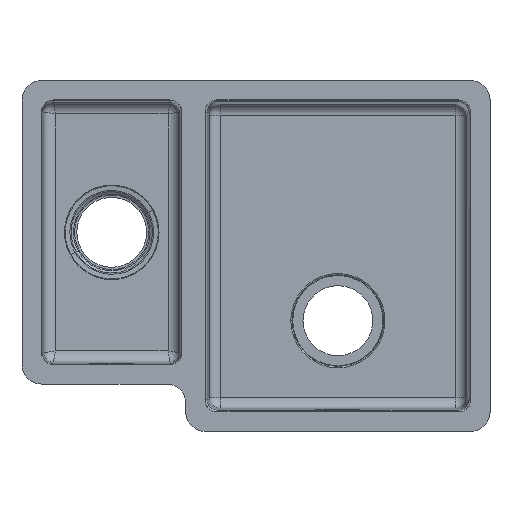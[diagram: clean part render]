
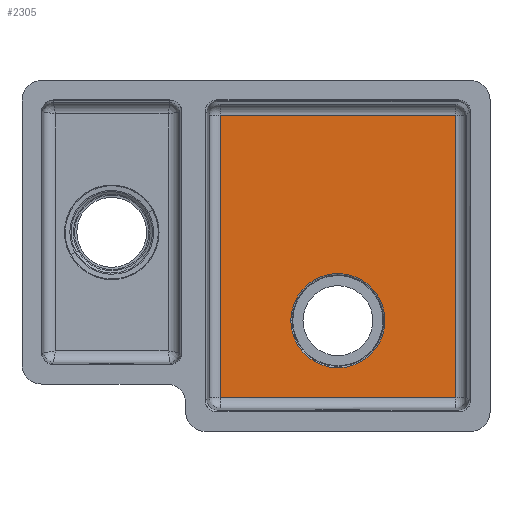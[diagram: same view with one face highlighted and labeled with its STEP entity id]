
A CAD part, top view. The second image highlights one B-rep face of the part: STEP entity #2305.
In plain terms, the highlighted planar face has unit normal (0, 0, 1) as drawn and (0, 0, -1) by its records, which use the part's own axes.
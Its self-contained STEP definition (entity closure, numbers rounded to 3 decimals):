
#2083=CARTESIAN_POINT('Vertex',(-151.769,181.769,199.)) ;
#2114=CARTESIAN_POINT('Vertex',(151.769,181.769,199.)) ;
#2117=CARTESIAN_POINT('Line Origine',(0.,181.769,199.)) ;
#2154=CARTESIAN_POINT('Vertex',(151.769,-181.769,199.)) ;
#2157=CARTESIAN_POINT('Line Origine',(151.769,0.,199.)) ;
#2194=CARTESIAN_POINT('Vertex',(-151.769,-181.769,199.)) ;
#2197=CARTESIAN_POINT('Line Origine',(0.,-181.769,199.)) ;
#2230=CARTESIAN_POINT('Line Origine',(-151.769,0.,199.)) ;
#2251=CARTESIAN_POINT('Vertex',(60.7,82.956,199.)) ;
#2254=CARTESIAN_POINT('Axis2P3D Location',(0.,82.956,199.)) ;
#2258=CARTESIAN_POINT('Vertex',(-60.7,82.956,199.)) ;
#2278=CARTESIAN_POINT('Axis2P3D Location',(0.,82.956,199.)) ;
#2290=CARTESIAN_POINT('Axis2P3D Location',(0.,0.,199.)) ;
#2118=DIRECTION('Vector Direction',(1.,0.,0.)) ;
#2158=DIRECTION('Vector Direction',(0.,1.,0.)) ;
#2198=DIRECTION('Vector Direction',(-1.,0.,0.)) ;
#2231=DIRECTION('Vector Direction',(0.,-1.,0.)) ;
#2255=DIRECTION('Axis2P3D Direction',(0.,-0.,1.)) ;
#2279=DIRECTION('Axis2P3D Direction',(-0.,0.,1.)) ;
#2291=DIRECTION('Axis2P3D Direction',(0.,0.,1.)) ;
#2292=DIRECTION('Axis2P3D XDirection',(1.,0.,0.)) ;
#2256=AXIS2_PLACEMENT_3D('Circle Axis2P3D',#2254,#2255,$) ;
#2280=AXIS2_PLACEMENT_3D('Circle Axis2P3D',#2278,#2279,$) ;
#2293=AXIS2_PLACEMENT_3D('Plane Axis2P3D',#2290,#2291,#2292) ;
#2296=ORIENTED_EDGE('',*,*,#2201,.T.) ;
#2297=ORIENTED_EDGE('',*,*,#2234,.F.) ;
#2298=ORIENTED_EDGE('',*,*,#2121,.T.) ;
#2299=ORIENTED_EDGE('',*,*,#2161,.F.) ;
#2302=ORIENTED_EDGE('',*,*,#2282,.T.) ;
#2303=ORIENTED_EDGE('',*,*,#2260,.T.) ;
#2304=FACE_BOUND('',#2301,.T.) ;
#2119=VECTOR('Line Direction',#2118,1.) ;
#2159=VECTOR('Line Direction',#2158,1.) ;
#2199=VECTOR('Line Direction',#2198,1.) ;
#2232=VECTOR('Line Direction',#2231,1.) ;
#2305=ADVANCED_FACE('PartBody',(#2300,#2304),#2294,.F.) ;
#2257=CIRCLE('generated circle',#2256,60.7) ;
#2281=CIRCLE('generated circle',#2280,60.7) ;
#2121=EDGE_CURVE('',#2084,#2115,#2120,.T.) ;
#2161=EDGE_CURVE('',#2155,#2115,#2160,.T.) ;
#2201=EDGE_CURVE('',#2155,#2195,#2200,.T.) ;
#2234=EDGE_CURVE('',#2084,#2195,#2233,.T.) ;
#2260=EDGE_CURVE('',#2259,#2252,#2257,.T.) ;
#2282=EDGE_CURVE('',#2252,#2259,#2281,.T.) ;
#2295=EDGE_LOOP('',(#2296,#2297,#2298,#2299)) ;
#2301=EDGE_LOOP('',(#2302,#2303)) ;
#2300=FACE_OUTER_BOUND('',#2295,.T.) ;
#2120=LINE('Line',#2117,#2119) ;
#2160=LINE('Line',#2157,#2159) ;
#2200=LINE('Line',#2197,#2199) ;
#2233=LINE('Line',#2230,#2232) ;
#2294=PLANE('',#2293) ;
#2084=VERTEX_POINT('',#2083) ;
#2115=VERTEX_POINT('',#2114) ;
#2155=VERTEX_POINT('',#2154) ;
#2195=VERTEX_POINT('',#2194) ;
#2252=VERTEX_POINT('',#2251) ;
#2259=VERTEX_POINT('',#2258) ;
